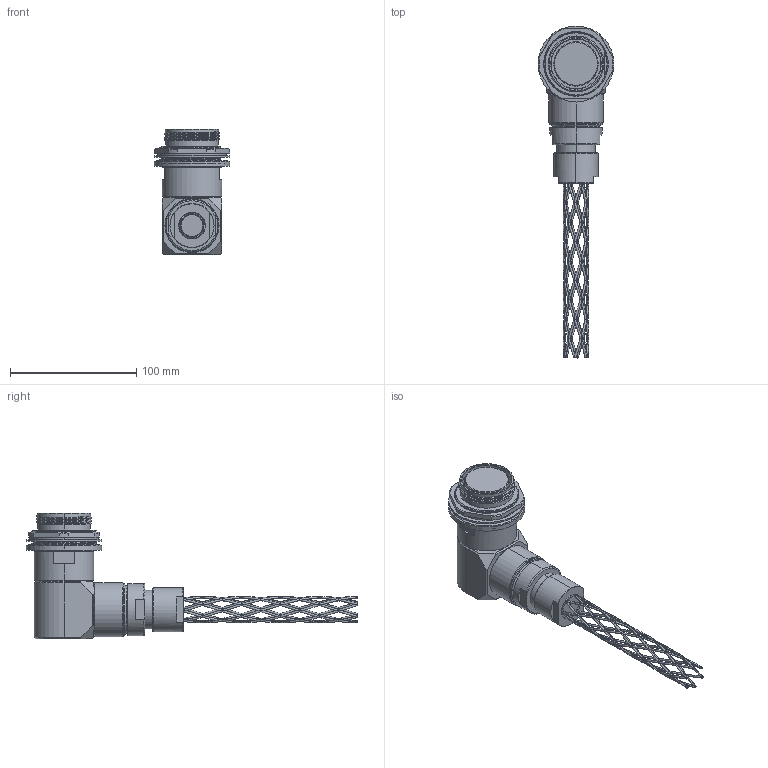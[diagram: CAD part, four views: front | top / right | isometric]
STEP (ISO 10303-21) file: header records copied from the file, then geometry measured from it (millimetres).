
FILE_DESCRIPTION (( 'STEP AP214' ), '1' );
FILE_NAME ('QLINK90-RJTX-27XX-GXXX.STEP', '2025-10-23T14:54:54', ( '' ), ( '' ), 'SwSTEP 2.0', 'SolidWorks 2024', '' );
FILE_SCHEMA (( 'AUTOMOTIVE_DESIGN' ));
Length unit declared in the file: millimetre
Products named in the file (1): QLINK90-RJTX-27XX-GXXX
Bounding box: 60.07 x 262.69 x 99.31 mm (x, y, z)
Volume: 267170.3 mm3; surface area: 53683.8 mm2
Topology: 2 solids, 4 shells, 510 faces, 1404 edges, 817 vertices
Faces by surface type: bspline 255, cylinder 93, plane 84, cone 55, torus 23
Entity records: 127721 total; most frequent: CARTESIAN_POINT 117714, ORIENTED_EDGE 2808, EDGE_CURVE 1404, DIRECTION 1385, VERTEX_POINT 817, AXIS2_PLACEMENT_3D 576, EDGE_LOOP 541, ADVANCED_FACE 510
